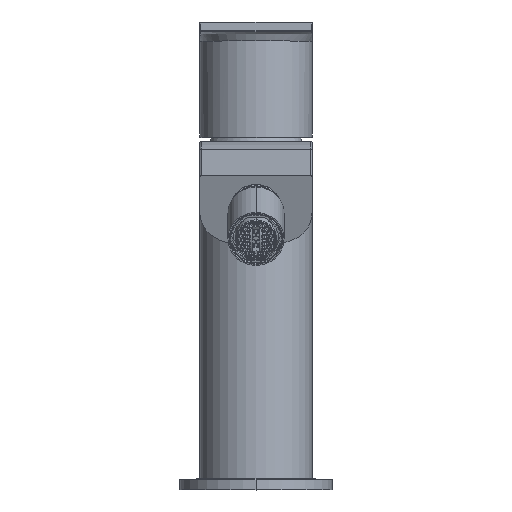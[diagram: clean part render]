
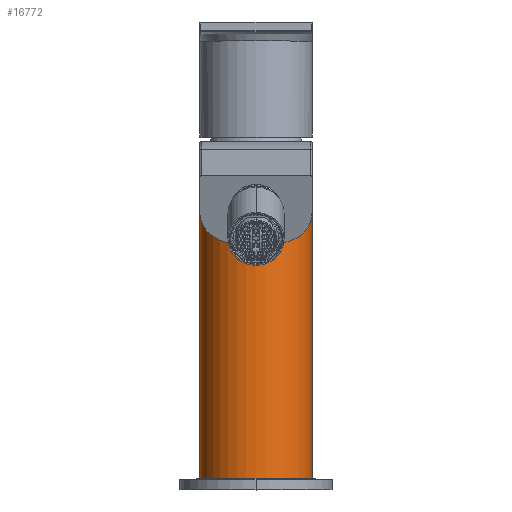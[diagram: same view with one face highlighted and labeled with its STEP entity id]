
A CAD part, top view. The second image highlights one B-rep face of the part: STEP entity #16772.
In plain terms, the highlighted cylindrical face has radius 18 mm (diameter 36 mm), a partial arc.
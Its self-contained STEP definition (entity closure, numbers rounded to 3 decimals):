
#740=CARTESIAN_POINT('',(18.,85.,0.));
#764=CARTESIAN_POINT('',(0.,85.,0.));
#765=DIRECTION('',(0.,-1.,0.));
#766=DIRECTION('',(1.,0.,0.));
#767=AXIS2_PLACEMENT_3D('',#764,#765,#766);
#798=CARTESIAN_POINT('',(0.,2.,0.));
#799=DIRECTION('',(0.,1.,0.));
#800=DIRECTION('',(-1.,0.,0.));
#801=AXIS2_PLACEMENT_3D('',#798,#799,#800);
#803=DIRECTION('',(0.,1.,0.));
#804=VECTOR('',#803,83.);
#805=CARTESIAN_POINT('',(-18.,2.,0.));
#806=LINE('',#805,#804);
#9831=CARTESIAN_POINT('',(-18.,85.,0.));
#9961=DIRECTION('',(0.,1.,0.));
#9962=VECTOR('',#9961,83.);
#9963=CARTESIAN_POINT('',(18.,2.,0.));
#9964=LINE('',#9963,#9962);
#14420=VERTEX_POINT('',#740);
#14436=VERTEX_POINT('',#9831);
#15692=CARTESIAN_POINT('',(18.,2.,0.));
#15693=CARTESIAN_POINT('',(-18.,2.,0.));
#15694=VERTEX_POINT('',#15692);
#15695=VERTEX_POINT('',#15693);
#16758=CARTESIAN_POINT('',(0.,0.,0.));
#16759=DIRECTION('',(0.,1.,0.));
#16760=DIRECTION('',(1.,0.,0.));
#16761=AXIS2_PLACEMENT_3D('',#16758,#16759,#16760);
#16762=CYLINDRICAL_SURFACE('',#16761,18.);
#16764=ORIENTED_EDGE('',*,*,#16763,.F.);
#16766=ORIENTED_EDGE('',*,*,#16765,.T.);
#16767=ORIENTED_EDGE('',*,*,#16695,.F.);
#16769=ORIENTED_EDGE('',*,*,#16768,.F.);
#16770=EDGE_LOOP('',(#16764,#16766,#16767,#16769));
#16771=FACE_OUTER_BOUND('',#16770,.F.);
#16772=ADVANCED_FACE('',(#16771),#16762,.T.);
#768=CIRCLE('',#767,18.);
#802=CIRCLE('',#801,18.);
#16695=EDGE_CURVE('',#14420,#14436,#768,.T.);
#16763=EDGE_CURVE('',#15695,#15694,#802,.T.);
#16765=EDGE_CURVE('',#15695,#14436,#806,.T.);
#16768=EDGE_CURVE('',#15694,#14420,#9964,.T.);
